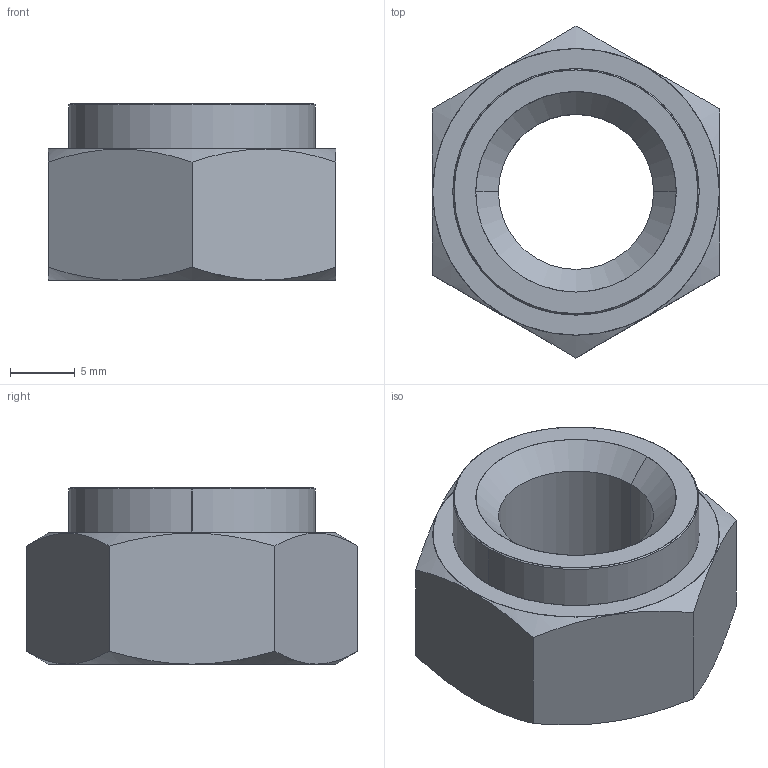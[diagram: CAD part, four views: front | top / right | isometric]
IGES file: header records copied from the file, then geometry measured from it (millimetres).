
Start section: SolidWorks IGES file using analytic representation for surfaces
Global section: file name: C:\Users\liam_\OneDrive\Desktop\Work\Mat Davis Pending 20181125\automotion\P SERIES\P0827.ZP_v2\P0827.ZP_v2_20181231_IGES\P0827.100-10G-ZP.igs; native system: SolidWorks 2017; preprocessor: SolidWorks 2017; author: liam_; date: 181231.111113; units: millimetre
Bounding box: 22.22 x 25.66 x 13.66 mm (x, y, z)
Surface area: 2020.4 mm2 (no closed solid volume)
Topology: 0 solids, 0 shells, 23 faces, 448 edges, 448 vertices
Faces by surface type: revolution 14, bspline 9
